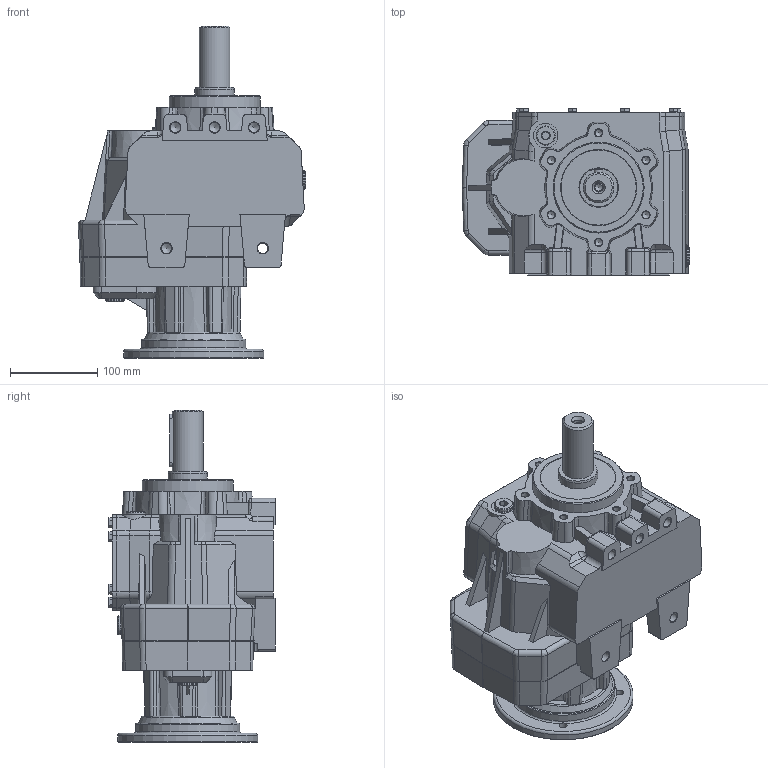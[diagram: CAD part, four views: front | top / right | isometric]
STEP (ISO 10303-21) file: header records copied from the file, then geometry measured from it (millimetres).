
FILE_DESCRIPTION( ( 'Unknown' ), '1' );
FILE_NAME( 'E:/services/configuratordownloads/customers/HYDROMEC/COASSIALI/download/96E3A482D388EDCE0D7E613E11160/STEP/96E3A482D388EDCE0D7E613E11160.3d.stp', 'Unknown', ( 'Unknown' ), ( 'Unknown' ), 'PSStep 10.1', 'Unknown', ' ' );
FILE_SCHEMA( ( 'AUTOMOTIVE_DESIGN { 1 0 10303 214 1 1 1 1 }' ) );
Length unit declared in the file: millimetre
Products named in the file (1): C818800
Bounding box: 260.12 x 190.2 x 379.5 mm (x, y, z)
Volume: 7318794.6 mm3; surface area: 355871.5 mm2
Topology: 1 solids, 29 shells, 933 faces, 2267 edges, 1455 vertices
Faces by surface type: plane 476, cylinder 245, cone 130, torus 41, bspline 38, sphere 3
Full cylindrical faces by diameter (mm): 4.917 x2, 6 x8, 7 x8, 8 x8, 8.376 x8, 8.5 x4, 8.9 x8, 9 x4, 9.5 x8, 10.5 x1, 11.835 x5, 13 x8, 14.3 x4, 14.95 x4, 17 x4, 22 x8, 25 x1, 28 x3, 35 x1, 44.999 x1, 45 x1, 50 x1, 62 x1, 68 x1, 103 x1, 104 x1, 107 x1, 110 x1, 119 x1, 160 x1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
Entity records: 34773 total; most frequent: CARTESIAN_POINT 7042, DIRECTION 4178, ORIENTED_EDGE 3862, EDGE_CURVE 1931, AXIS2_PLACEMENT_3D 1615, VERTEX_POINT 1348, EDGE_LOOP 1261, FACE_OUTER_BOUND 1082
